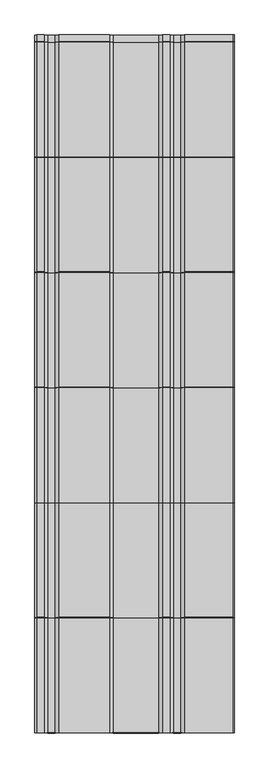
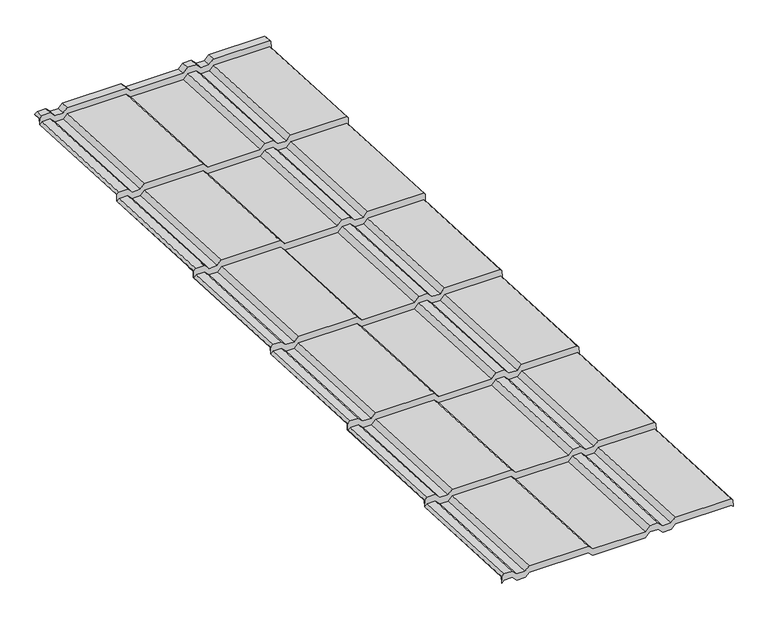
"""IFC4 building model written with IfcOpenShell, lengths in millimetres: proxy geometry, AQUAPLAST - Blachodachówka Alice na wymiar : Blachodachówka Alice."""

from ifc_helpers import new_model, si_unit, origin, place, context, project, spatial, faceted_brep, source, transform, mapped, element, save


def specialty_equipment_d922b182(model_context):
    return source(origin(), model_context, "Body", "Brep", [
        faceted_brep([(-566.0477972, 4191.8197377, 29.0407544), (-571.7598776, 4191.5357252, 23.3357391), (-571.7598776, 4190.7215377, 6.9809929), (-566.0477972, 4191.0055502, 12.6860082), (-543.5017928, 4191.0055502, 12.6860082), (-532.0017928, 4190.4337544, 1.2002323), (-510.6231132, 4190.4337544, 1.2002323), (-499.6231132, 4190.9806895, 12.1866267), (-345.1055852, 4190.9806895, 12.1866267), (-333.6055852, 4190.4088937, 0.7008507), (-195.9354926, 4190.4088937, 0.7008507), (-183.9354926, 4191.0055502, 12.6860082), (-161.7088996, 4191.0055502, 12.6860082), (-149.7088996, 4190.4088937, 0.7008507), (-128.1231132, 4190.4088937, 0.7008507), (-116.6231132, 4190.9806895, 12.1866267), (30.5086777, 4190.9806895, 12.1866267), (34.2401224, 4190.795157, 8.4597973), (34.2401224, 4191.6093445, 24.8145435), (30.5086777, 4191.794877, 28.5413729), (-116.6231132, 4191.794877, 28.5413729), (-128.1231132, 4191.2230812, 17.0555969), (-149.7088996, 4191.2230812, 17.0555969), (-161.7088996, 4191.8197377, 29.0407544), (-183.9354926, 4191.8197377, 29.0407544), (-195.9354926, 4191.2230812, 17.0555969), (-333.6055852, 4191.2230812, 17.0555969), (-345.1055852, 4191.794877, 28.5413729), (-499.6231132, 4191.794877, 28.5413729), (-510.6231132, 4191.2479419, 17.5549785), (-532.0017928, 4191.2479419, 17.5549785), (-543.5017928, 4191.8197377, 29.0407544), (-510.4160064, 4212.1971069, 16.0114481), (-532.2088996, 4212.1971069, 16.0114481), (-543.7088996, 4212.7689027, 27.497224), (-565.8406904, 4212.7689027, 27.497224), (-571.7598776, 4212.4745926, 21.5853581), (-571.7598776, 4212.5097509, 22.2915903), (-566.0477972, 4212.7937634, 27.9966056), (-543.5017928, 4212.7937634, 27.9966056), (-532.0017928, 4212.2219676, 16.5108296), (-510.6231132, 4212.2219676, 16.5108296), (-499.6231132, 4212.7689027, 27.497224), (-345.1055852, 4212.7689027, 27.497224), (-333.6055852, 4212.1971069, 16.0114481), (-195.9354926, 4212.1971069, 16.0114481), (-183.9354926, 4212.7937634, 27.9966056), (-161.7088996, 4212.7937634, 27.9966056), (-149.7088996, 4212.1971069, 16.0114481), (-128.1231132, 4212.1971069, 16.0114481), (-116.6231132, 4212.7689027, 27.497224), (30.5086777, 4212.7689027, 27.497224), (34.2401224, 4212.5833701, 23.7703947), (34.2401224, 4212.5482118, 23.0641625), (30.3015709, 4212.744042, 26.9978425), (-116.4160064, 4212.744042, 26.9978425), (-127.9160064, 4212.1722462, 15.5120665), (-149.9160064, 4212.1722462, 15.5120665), (-161.9160064, 4212.7689027, 27.497224), (-183.7283858, 4212.7689027, 27.497224), (-195.7283858, 4212.1722462, 15.5120665), (-333.8126919, 4212.1722462, 15.5120665), (-345.3126919, 4212.744042, 26.9978425), (-499.4160064, 4212.744042, 26.9978425), (-510.4160064, 4192.2218443, 17.0058755), (-532.2088996, 4192.2218443, 17.0058755), (-543.7088996, 4192.7936401, 28.4916515), (-565.8406904, 4192.7936401, 28.4916515), (-571.7598776, 4192.49933, 22.5797856), (-566.0477972, 4192.8185008, 28.9910331), (-543.5017928, 4192.8185008, 28.9910331), (-532.0017928, 4192.246705, 17.5052571), (-510.6231132, 4192.246705, 17.5052571), (-499.6231132, 4192.7936401, 28.4916515), (-345.1055852, 4192.7936401, 28.4916515), (-333.6055852, 4192.2218443, 17.0058755), (-195.9354926, 4192.2218443, 17.0058755), (-183.9354926, 4192.8185008, 28.9910331), (-161.7088996, 4192.8185008, 28.9910331), (-149.7088996, 4192.2218443, 17.0058755), (-128.1231132, 4192.2218443, 17.0058755), (-116.6231132, 4192.7936401, 28.4916515), (30.5086777, 4192.7936401, 28.4916515), (34.2401224, 4192.5729493, 24.0585899), (30.3015709, 4192.7687795, 27.9922699), (-116.4160064, 4192.7687795, 27.9922699), (-127.9160064, 4192.1969837, 16.506494), (-149.9160064, 4192.1969837, 16.506494), (-161.9160064, 4192.7936401, 28.4916515), (-183.7283858, 4192.7936401, 28.4916515), (-195.7283858, 4192.1969837, 16.506494), (-333.8126919, 4192.1969837, 16.506494), (-345.3126919, 4192.7687795, 27.9922699), (-499.4160064, 4192.7687795, 27.9922699), (-566.0477972, 3492.0, 29.9628938), (-571.7598776, 3491.7159875, 24.2578785), (-571.7598776, 3490.8504822, 6.8723021), (-565.8406904, 3491.1447924, 12.784168), (-543.7088996, 3491.1447924, 12.784168), (-532.2088996, 3490.5729966, 1.2983921), (-510.4160064, 3490.5729966, 1.2983921), (-499.4160064, 3491.1199317, 12.2847865), (-345.3126919, 3491.1199317, 12.2847865), (-333.8126919, 3490.5481359, 0.7990105), (-195.7283858, 3490.5481359, 0.7990105), (-183.7283858, 3491.1447924, 12.784168), (-161.9160064, 3491.1447924, 12.784168), (-149.9160064, 3490.5481359, 0.7990105), (-127.9160064, 3490.5481359, 0.7990105), (-116.4160064, 3491.1199317, 12.2847865), (30.3015709, 3491.1199317, 12.2847865), (34.2401224, 3490.9241015, 8.3511065), (34.2401224, 3491.7896068, 25.7366829), (30.5086777, 3491.9751393, 29.4635123), (-116.6231132, 3491.9751393, 29.4635123), (-128.1231132, 3491.4033435, 17.9777363), (-149.7088996, 3491.4033435, 17.9777363), (-161.7088996, 3492.0, 29.9628938), (-183.9354926, 3492.0, 29.9628938), (-195.9354926, 3491.4033435, 17.9777363), (-333.6055852, 3491.4033435, 17.9777363), (-345.1055852, 3491.9751393, 29.4635123), (-499.6231132, 3491.9751393, 29.4635123), (-510.6231132, 3491.4282042, 18.4771179), (-532.0017928, 3491.4282042, 18.4771179), (-543.5017928, 3492.0, 29.9628938), (-510.4160064, 3840.9704382, 0.5752554), (-532.2088996, 3840.9704382, 0.5752554), (-543.7088996, 3841.542234, 12.0610314), (-565.8406904, 3841.542234, 12.0610314), (-571.7598776, 3841.2479238, 6.1491655), (-571.7598776, 3842.1180479, 23.6275202), (-565.8406904, 3842.412358, 29.5393861), (-543.7088996, 3842.412358, 29.5393861), (-532.2088996, 3841.8405622, 18.0536102), (-510.4160064, 3841.8405622, 18.0536102), (-499.4160064, 3842.3874973, 29.0400046), (-345.3126919, 3842.3874973, 29.0400046), (-333.8126919, 3841.8157015, 17.5542286), (-195.7283858, 3841.8157015, 17.5542286), (-183.7283858, 3842.412358, 29.5393861), (-161.9160064, 3842.412358, 29.5393861), (-149.9160064, 3841.8157015, 17.5542286), (-127.9160064, 3841.8157015, 17.5542286), (-116.4160064, 3842.3874973, 29.0400046), (30.3015709, 3842.3874973, 29.0400046), (34.2401224, 3842.1916671, 25.1063246), (34.2401224, 3841.3215431, 7.6279699), (30.3015709, 3841.5173733, 11.5616498), (-116.4160064, 3841.5173733, 11.5616498), (-127.9160064, 3840.9455775, 0.0758739), (-149.9160064, 3840.9455775, 0.0758739), (-161.9160064, 3841.542234, 12.0610314), (-183.7283858, 3841.542234, 12.0610314), (-195.7283858, 3840.9455775, 0.0758739), (-333.8126919, 3840.9455775, 0.0758739), (-345.3126919, 3841.5173733, 11.5616498), (-499.4160064, 3841.5173733, 11.5616498), (-510.6231132, 3839.9965357, 1.1243584), (-532.0017928, 3839.9965357, 1.1243584), (-499.6231132, 3840.5434708, 12.1107528), (-345.1055852, 3840.5434708, 12.1107528), (-333.6055852, 3839.971675, 0.6249768), (-195.9354926, 3839.971675, 0.6249768), (-183.9354926, 3840.5683315, 12.6101343), (-161.7088996, 3840.5683315, 12.6101343), (-149.7088996, 3839.971675, 0.6249768), (-128.1231132, 3839.971675, 0.6249768), (-116.6231132, 3840.5434708, 12.1107528), (30.5086777, 3840.5434708, 12.1107528), (34.2401224, 3840.3579383, 8.3839234), (34.2401224, 3492.7532116, 24.9807293), (30.3015709, 3492.9490418, 28.9144093), (30.3015709, 3840.5186101, 11.6113712), (-116.4160064, 3492.9490418, 28.9144093), (-116.4160064, 3840.5186101, 11.6113712), (-127.9160064, 3492.377246, 17.4286334), (-127.9160064, 3839.9468143, 0.1255953), (-149.9160064, 3492.377246, 17.4286334), (-149.9160064, 3839.9468143, 0.1255953), (-161.9160064, 3492.9739024, 29.4137909), (-161.9160064, 3840.5434708, 12.1107528), (-183.7283858, 3492.9739024, 29.4137909), (-183.7283858, 3840.5434708, 12.1107528), (-195.7283858, 3492.377246, 17.4286334), (-195.7283858, 3839.9468143, 0.1255953), (-333.8126919, 3492.377246, 17.4286334), (-333.8126919, 3839.9468143, 0.1255953), (-345.3126919, 3492.9490418, 28.9144093), (-345.3126919, 3840.5186101, 11.6113712), (-499.4160064, 3492.9490418, 28.9144093), (-499.4160064, 3840.5186101, 11.6113712), (-510.4160064, 3492.4021066, 17.9280149), (-510.4160064, 3839.971675, 0.6249768), (-532.2088996, 3492.4021066, 17.9280149), (-532.2088996, 3839.971675, 0.6249768), (-543.7088996, 3492.9739024, 29.4137909), (-543.7088996, 3840.5434708, 12.1107528), (-565.8406904, 3492.9739024, 29.4137909), (-565.8406904, 3840.5434708, 12.1107528), (-571.7598776, 3492.6795923, 23.501925), (-566.0477972, 3840.5683315, 12.6101343), (-571.7598776, 3840.284319, 6.905119), (-543.5017928, 3840.5683315, 12.6101343), (-566.0477972, 3841.4384556, 30.0884891), (-571.7598776, 3841.1544431, 24.3834738), (34.2401224, 3841.2280623, 25.8622781), (30.5086777, 3841.4135949, 29.5891075), (-116.6231132, 3841.4135949, 29.5891075), (-128.1231132, 3840.8417991, 18.1033315), (-149.7088996, 3840.8417991, 18.1033315), (-161.7088996, 3841.4384556, 30.0884891), (-183.9354926, 3841.4384556, 30.0884891), (-195.9354926, 3840.8417991, 18.1033315), (-333.6055852, 3840.8417991, 18.1033315), (-345.1055852, 3841.4135949, 29.5891075), (-499.6231132, 3841.4135949, 29.5891075), (-510.6231132, 3840.8666598, 18.6027131), (-532.0017928, 3840.8666598, 18.6027131), (-543.5017928, 3841.4384556, 30.0884891), (30.3015709, 4191.954592, 11.6375237), (34.2401224, 4191.7587618, 7.7038437), (-116.4160064, 4191.954592, 11.6375237), (-127.9160064, 4191.3827962, 0.1517478), (-149.9160064, 4191.3827962, 0.1517478), (-161.9160064, 4191.9794527, 12.1369053), (-183.7283858, 4191.9794527, 12.1369053), (-195.7283858, 4191.3827962, 0.1517478), (-333.8126919, 4191.3827962, 0.1517478), (-345.3126919, 4191.954592, 11.6375237), (-499.4160064, 4191.954592, 11.6375237), (-510.4160064, 4191.4076569, 0.6511293), (-532.2088996, 4191.4076569, 0.6511293), (-543.7088996, 4191.9794527, 12.1369053), (-565.8406904, 4191.9794527, 12.1369053), (-571.7598776, 4191.6851425, 6.2250394), (-571.7598776, 3491.8492454, 6.8225807), (34.2401224, 3491.9228646, 8.3013851), (30.3015709, 3492.1186948, 12.2350651), (-116.4160064, 3492.1186948, 12.2350651), (-127.9160064, 3491.546899, 0.7492891), (-149.9160064, 3491.546899, 0.7492891), (-161.9160064, 3492.1435555, 12.7344467), (-183.7283858, 3492.1435555, 12.7344467), (-195.7283858, 3491.546899, 0.7492891), (-333.8126919, 3491.546899, 0.7492891), (-345.3126919, 3492.1186948, 12.2350651), (-499.4160064, 3492.1186948, 12.2350651), (-510.4160064, 3491.5717597, 1.2486707), (-532.2088996, 3491.5717597, 1.2486707), (-543.7088996, 3492.1435555, 12.7344467), (-565.8406904, 3492.1435555, 12.7344467)], [[[0, 1, 2, 3, 4, 5, 6, 7, 8, 9, 10, 11, 12, 13, 14, 15, 16, 17, 18, 19, 20, 21, 22, 23, 24, 25, 26, 27, 28, 29, 30, 31]], [[32, 33, 34, 35, 36, 37, 38, 39, 40, 41, 42, 43, 44, 45, 46, 47, 48, 49, 50, 51, 52, 53, 54, 55, 56, 57, 58, 59, 60, 61, 62, 63]], [[32, 64, 65, 33]], [[33, 65, 66, 34]], [[34, 66, 67, 35]], [[67, 68, 36, 35]], [[38, 37, 1, 0, 69]], [[31, 70, 39, 38, 69, 0]], [[30, 71, 40, 39, 70, 31]], [[29, 72, 41, 40, 71, 30]], [[28, 73, 42, 41, 72, 29]], [[27, 74, 43, 42, 73, 28]], [[26, 75, 44, 43, 74, 27]], [[25, 76, 45, 44, 75, 26]], [[24, 77, 46, 45, 76, 25]], [[23, 78, 47, 46, 77, 24]], [[22, 79, 48, 47, 78, 23]], [[21, 80, 49, 48, 79, 22]], [[20, 81, 50, 49, 80, 21]], [[19, 82, 51, 50, 81, 20]], [[82, 19, 18, 52, 51]], [[54, 53, 83, 84]], [[54, 84, 85, 55]], [[55, 85, 86, 56]], [[56, 86, 87, 57]], [[57, 87, 88, 58]], [[58, 88, 89, 59]], [[59, 89, 90, 60]], [[60, 90, 91, 61]], [[61, 91, 92, 62]], [[62, 92, 93, 63]], [[63, 93, 64, 32]], [[94, 95, 96, 97, 98, 99, 100, 101, 102, 103, 104, 105, 106, 107, 108, 109, 110, 111, 112, 113, 114, 115, 116, 117, 118, 119, 120, 121, 122, 123, 124, 125]], [[126, 127, 128, 129, 130, 131, 132, 133, 134, 135, 136, 137, 138, 139, 140, 141, 142, 143, 144, 145, 146, 147, 148, 149, 150, 151, 152, 153, 154, 155, 156, 157]], [[123, 158, 159, 124]], [[122, 160, 158, 123]], [[121, 161, 160, 122]], [[120, 162, 161, 121]], [[119, 163, 162, 120]], [[118, 164, 163, 119]], [[117, 165, 164, 118]], [[116, 166, 165, 117]], [[115, 167, 166, 116]], [[114, 168, 167, 115]], [[113, 169, 168, 114]], [[113, 112, 170, 169]], [[148, 147, 171, 172, 173]], [[148, 173, 172, 174, 175, 149]], [[149, 175, 174, 176, 177, 150]], [[150, 177, 176, 178, 179, 151]], [[151, 179, 178, 180, 181, 152]], [[152, 181, 180, 182, 183, 153]], [[153, 183, 182, 184, 185, 154]], [[154, 185, 184, 186, 187, 155]], [[155, 187, 186, 188, 189, 156]], [[156, 189, 188, 190, 191, 157]], [[157, 191, 190, 192, 193, 126]], [[126, 193, 192, 194, 195, 127]], [[127, 195, 194, 196, 197, 128]], [[128, 197, 196, 198, 199, 129]], [[199, 198, 200, 130, 129]], [[201, 202, 95, 94]], [[125, 203, 201, 94]], [[124, 159, 203, 125]], [[204, 205, 202, 201, 203, 159, 158, 160, 161, 162, 163, 164, 165, 166, 167, 168, 169, 170, 206, 207, 208, 209, 210, 211, 212, 213, 214, 215, 216, 217, 218, 219]], [[217, 6, 5, 218]], [[216, 7, 6, 217]], [[215, 8, 7, 216]], [[214, 9, 8, 215]], [[213, 10, 9, 214]], [[212, 11, 10, 213]], [[211, 12, 11, 212]], [[210, 13, 12, 211]], [[209, 14, 13, 210]], [[208, 15, 14, 209]], [[207, 16, 15, 208]], [[207, 206, 17, 16]], [[220, 221, 146, 145]], [[220, 145, 144, 222]], [[222, 144, 143, 223]], [[223, 143, 142, 224]], [[224, 142, 141, 225]], [[225, 141, 140, 226]], [[226, 140, 139, 227]], [[227, 139, 138, 228]], [[228, 138, 137, 229]], [[229, 137, 136, 230]], [[230, 136, 135, 231]], [[231, 135, 134, 232]], [[232, 134, 133, 233]], [[233, 133, 132, 234]], [[234, 132, 131, 235]], [[3, 2, 205, 204]], [[219, 4, 3, 204]], [[218, 5, 4, 219]], [[235, 68, 67, 66, 65, 64, 93, 92, 91, 90, 89, 88, 87, 86, 85, 84, 83, 221, 220, 222, 223, 224, 225, 226, 227, 228, 229, 230, 231, 232, 233, 234]], [[96, 95, 202, 205, 2, 1, 37, 36, 68, 235, 131, 130, 200, 236]], [[200, 198, 196, 194, 192, 190, 188, 186, 184, 182, 180, 178, 176, 174, 172, 171, 237, 238, 239, 240, 241, 242, 243, 244, 245, 246, 247, 248, 249, 250, 251, 236]], [[238, 237, 111, 110]], [[109, 239, 238, 110]], [[108, 240, 239, 109]], [[107, 241, 240, 108]], [[106, 242, 241, 107]], [[105, 243, 242, 106]], [[104, 244, 243, 105]], [[103, 245, 244, 104]], [[102, 246, 245, 103]], [[101, 247, 246, 102]], [[100, 248, 247, 101]], [[99, 249, 248, 100]], [[98, 250, 249, 99]], [[97, 251, 250, 98]], [[96, 236, 251, 97]], [[17, 206, 170, 112, 111, 237, 171, 147, 146, 221, 83, 53, 52, 18]]]),
        faceted_brep([(-566.0477972, 3493.4197377, 29.0407544), (-571.7598776, 3493.1357252, 23.3357391), (-571.7598776, 3492.3215377, 6.9809929), (-566.0477972, 3492.6055502, 12.6860082), (-543.5017928, 3492.6055502, 12.6860082), (-532.0017928, 3492.0337544, 1.2002323), (-510.6231132, 3492.0337544, 1.2002323), (-499.6231132, 3492.5806895, 12.1866267), (-345.1055852, 3492.5806895, 12.1866267), (-333.6055852, 3492.0088937, 0.7008507), (-195.9354926, 3492.0088937, 0.7008507), (-183.9354926, 3492.6055502, 12.6860082), (-161.7088996, 3492.6055502, 12.6860082), (-149.7088996, 3492.0088937, 0.7008507), (-128.1231132, 3492.0088937, 0.7008507), (-116.6231132, 3492.5806895, 12.1866267), (30.5086777, 3492.5806895, 12.1866267), (34.2401224, 3492.395157, 8.4597973), (34.2401224, 3493.2093445, 24.8145435), (30.5086777, 3493.394877, 28.5413729), (-116.6231132, 3493.394877, 28.5413729), (-128.1231132, 3492.8230812, 17.0555969), (-149.7088996, 3492.8230812, 17.0555969), (-161.7088996, 3493.4197377, 29.0407544), (-183.9354926, 3493.4197377, 29.0407544), (-195.9354926, 3492.8230812, 17.0555969), (-333.6055852, 3492.8230812, 17.0555969), (-345.1055852, 3493.394877, 28.5413729), (-499.6231132, 3493.394877, 28.5413729), (-510.6231132, 3492.8479419, 17.5549785), (-532.0017928, 3492.8479419, 17.5549785), (-543.5017928, 3493.4197377, 29.0407544), (-510.4160064, 3513.7971069, 16.0114481), (-532.2088996, 3513.7971069, 16.0114481), (-543.7088996, 3514.3689027, 27.497224), (-565.8406904, 3514.3689027, 27.497224), (-571.7598776, 3514.0745926, 21.5853581), (-571.7598776, 3514.1097509, 22.2915903), (-566.0477972, 3514.3937634, 27.9966056), (-543.5017928, 3514.3937634, 27.9966056), (-532.0017928, 3513.8219676, 16.5108296), (-510.6231132, 3513.8219676, 16.5108296), (-499.6231132, 3514.3689027, 27.497224), (-345.1055852, 3514.3689027, 27.497224), (-333.6055852, 3513.7971069, 16.0114481), (-195.9354926, 3513.7971069, 16.0114481), (-183.9354926, 3514.3937634, 27.9966056), (-161.7088996, 3514.3937634, 27.9966056), (-149.7088996, 3513.7971069, 16.0114481), (-128.1231132, 3513.7971069, 16.0114481), (-116.6231132, 3514.3689027, 27.497224), (30.5086777, 3514.3689027, 27.497224), (34.2401224, 3514.1833701, 23.7703947), (34.2401224, 3514.1482118, 23.0641625), (30.3015709, 3514.344042, 26.9978425), (-116.4160064, 3514.344042, 26.9978425), (-127.9160064, 3513.7722462, 15.5120665), (-149.9160064, 3513.7722462, 15.5120665), (-161.9160064, 3514.3689027, 27.497224), (-183.7283858, 3514.3689027, 27.497224), (-195.7283858, 3513.7722462, 15.5120665), (-333.8126919, 3513.7722462, 15.5120665), (-345.3126919, 3514.344042, 26.9978425), (-499.4160064, 3514.344042, 26.9978425), (-510.4160064, 3493.8218443, 17.0058755), (-532.2088996, 3493.8218443, 17.0058755), (-543.7088996, 3494.3936401, 28.4916515), (-565.8406904, 3494.3936401, 28.4916515), (-571.7598776, 3494.09933, 22.5797856), (-566.0477972, 3494.4185008, 28.9910331), (-543.5017928, 3494.4185008, 28.9910331), (-532.0017928, 3493.846705, 17.5052571), (-510.6231132, 3493.846705, 17.5052571), (-499.6231132, 3494.3936401, 28.4916515), (-345.1055852, 3494.3936401, 28.4916515), (-333.6055852, 3493.8218443, 17.0058755), (-195.9354926, 3493.8218443, 17.0058755), (-183.9354926, 3494.4185008, 28.9910331), (-161.7088996, 3494.4185008, 28.9910331), (-149.7088996, 3493.8218443, 17.0058755), (-128.1231132, 3493.8218443, 17.0058755), (-116.6231132, 3494.3936401, 28.4916515), (30.5086777, 3494.3936401, 28.4916515), (34.2401224, 3494.1729493, 24.0585899), (30.3015709, 3494.3687795, 27.9922699), (-116.4160064, 3494.3687795, 27.9922699), (-127.9160064, 3493.7969837, 16.506494), (-149.9160064, 3493.7969837, 16.506494), (-161.9160064, 3494.3936401, 28.4916515), (-183.7283858, 3494.3936401, 28.4916515), (-195.7283858, 3493.7969837, 16.506494), (-333.8126919, 3493.7969837, 16.506494), (-345.3126919, 3494.3687795, 27.9922699), (-499.4160064, 3494.3687795, 27.9922699), (-566.0477972, 2793.6, 29.9628938), (-571.7598776, 2793.3159875, 24.2578785), (-571.7598776, 2792.4504822, 6.8723021), (-565.8406904, 2792.7447924, 12.784168), (-543.7088996, 2792.7447924, 12.784168), (-532.2088996, 2792.1729966, 1.2983921), (-510.4160064, 2792.1729966, 1.2983921), (-499.4160064, 2792.7199317, 12.2847865), (-345.3126919, 2792.7199317, 12.2847865), (-333.8126919, 2792.1481359, 0.7990105), (-195.7283858, 2792.1481359, 0.7990105), (-183.7283858, 2792.7447924, 12.784168), (-161.9160064, 2792.7447924, 12.784168), (-149.9160064, 2792.1481359, 0.7990105), (-127.9160064, 2792.1481359, 0.7990105), (-116.4160064, 2792.7199317, 12.2847865), (30.3015709, 2792.7199317, 12.2847865), (34.2401224, 2792.5241015, 8.3511065), (34.2401224, 2793.3896068, 25.7366829), (30.5086777, 2793.5751393, 29.4635123), (-116.6231132, 2793.5751393, 29.4635123), (-128.1231132, 2793.0033435, 17.9777363), (-149.7088996, 2793.0033435, 17.9777363), (-161.7088996, 2793.6, 29.9628938), (-183.9354926, 2793.6, 29.9628938), (-195.9354926, 2793.0033435, 17.9777363), (-333.6055852, 2793.0033435, 17.9777363), (-345.1055852, 2793.5751393, 29.4635123), (-499.6231132, 2793.5751393, 29.4635123), (-510.6231132, 2793.0282042, 18.4771179), (-532.0017928, 2793.0282042, 18.4771179), (-543.5017928, 2793.6, 29.9628938), (-510.4160064, 3142.5704382, 0.5752554), (-532.2088996, 3142.5704382, 0.5752554), (-543.7088996, 3143.142234, 12.0610314), (-565.8406904, 3143.142234, 12.0610314), (-571.7598776, 3142.8479238, 6.1491655), (-571.7598776, 3143.7180479, 23.6275202), (-565.8406904, 3144.012358, 29.5393861), (-543.7088996, 3144.012358, 29.5393861), (-532.2088996, 3143.4405622, 18.0536102), (-510.4160064, 3143.4405622, 18.0536102), (-499.4160064, 3143.9874973, 29.0400046), (-345.3126919, 3143.9874973, 29.0400046), (-333.8126919, 3143.4157015, 17.5542286), (-195.7283858, 3143.4157015, 17.5542286), (-183.7283858, 3144.012358, 29.5393861), (-161.9160064, 3144.012358, 29.5393861), (-149.9160064, 3143.4157015, 17.5542286), (-127.9160064, 3143.4157015, 17.5542286), (-116.4160064, 3143.9874973, 29.0400046), (30.3015709, 3143.9874973, 29.0400046), (34.2401224, 3143.7916671, 25.1063246), (34.2401224, 3142.9215431, 7.6279699), (30.3015709, 3143.1173733, 11.5616498), (-116.4160064, 3143.1173733, 11.5616498), (-127.9160064, 3142.5455775, 0.0758739), (-149.9160064, 3142.5455775, 0.0758739), (-161.9160064, 3143.142234, 12.0610314), (-183.7283858, 3143.142234, 12.0610314), (-195.7283858, 3142.5455775, 0.0758739), (-333.8126919, 3142.5455775, 0.0758739), (-345.3126919, 3143.1173733, 11.5616498), (-499.4160064, 3143.1173733, 11.5616498), (-510.6231132, 3141.5965357, 1.1243584), (-532.0017928, 3141.5965357, 1.1243584), (-499.6231132, 3142.1434708, 12.1107528), (-345.1055852, 3142.1434708, 12.1107528), (-333.6055852, 3141.571675, 0.6249768), (-195.9354926, 3141.571675, 0.6249768), (-183.9354926, 3142.1683315, 12.6101343), (-161.7088996, 3142.1683315, 12.6101343), (-149.7088996, 3141.571675, 0.6249768), (-128.1231132, 3141.571675, 0.6249768), (-116.6231132, 3142.1434708, 12.1107528), (30.5086777, 3142.1434708, 12.1107528), (34.2401224, 3141.9579383, 8.3839234), (34.2401224, 2794.3532116, 24.9807293), (30.3015709, 2794.5490418, 28.9144093), (30.3015709, 3142.1186101, 11.6113712), (-116.4160064, 2794.5490418, 28.9144093), (-116.4160064, 3142.1186101, 11.6113712), (-127.9160064, 2793.977246, 17.4286334), (-127.9160064, 3141.5468143, 0.1255953), (-149.9160064, 2793.977246, 17.4286334), (-149.9160064, 3141.5468143, 0.1255953), (-161.9160064, 2794.5739024, 29.4137909), (-161.9160064, 3142.1434708, 12.1107528), (-183.7283858, 2794.5739024, 29.4137909), (-183.7283858, 3142.1434708, 12.1107528), (-195.7283858, 2793.977246, 17.4286334), (-195.7283858, 3141.5468143, 0.1255953), (-333.8126919, 2793.977246, 17.4286334), (-333.8126919, 3141.5468143, 0.1255953), (-345.3126919, 2794.5490418, 28.9144093), (-345.3126919, 3142.1186101, 11.6113712), (-499.4160064, 2794.5490418, 28.9144093), (-499.4160064, 3142.1186101, 11.6113712), (-510.4160064, 2794.0021066, 17.9280149), (-510.4160064, 3141.571675, 0.6249768), (-532.2088996, 2794.0021066, 17.9280149), (-532.2088996, 3141.571675, 0.6249768), (-543.7088996, 2794.5739024, 29.4137909), (-543.7088996, 3142.1434708, 12.1107528), (-565.8406904, 2794.5739024, 29.4137909), (-565.8406904, 3142.1434708, 12.1107528), (-571.7598776, 2794.2795923, 23.501925), (-566.0477972, 3142.1683315, 12.6101343), (-571.7598776, 3141.884319, 6.905119), (-543.5017928, 3142.1683315, 12.6101343), (-566.0477972, 3143.0384556, 30.0884891), (-571.7598776, 3142.7544431, 24.3834738), (34.2401224, 3142.8280623, 25.8622781), (30.5086777, 3143.0135949, 29.5891075), (-116.6231132, 3143.0135949, 29.5891075), (-128.1231132, 3142.4417991, 18.1033315), (-149.7088996, 3142.4417991, 18.1033315), (-161.7088996, 3143.0384556, 30.0884891), (-183.9354926, 3143.0384556, 30.0884891), (-195.9354926, 3142.4417991, 18.1033315), (-333.6055852, 3142.4417991, 18.1033315), (-345.1055852, 3143.0135949, 29.5891075), (-499.6231132, 3143.0135949, 29.5891075), (-510.6231132, 3142.4666598, 18.6027131), (-532.0017928, 3142.4666598, 18.6027131), (-543.5017928, 3143.0384556, 30.0884891), (30.3015709, 3493.554592, 11.6375237), (34.2401224, 3493.3587618, 7.7038437), (-116.4160064, 3493.554592, 11.6375237), (-127.9160064, 3492.9827962, 0.1517478), (-149.9160064, 3492.9827962, 0.1517478), (-161.9160064, 3493.5794527, 12.1369053), (-183.7283858, 3493.5794527, 12.1369053), (-195.7283858, 3492.9827962, 0.1517478), (-333.8126919, 3492.9827962, 0.1517478), (-345.3126919, 3493.554592, 11.6375237), (-499.4160064, 3493.554592, 11.6375237), (-510.4160064, 3493.0076569, 0.6511293), (-532.2088996, 3493.0076569, 0.6511293), (-543.7088996, 3493.5794527, 12.1369053), (-565.8406904, 3493.5794527, 12.1369053), (-571.7598776, 3493.2851425, 6.2250394), (-571.7598776, 2793.4492454, 6.8225807), (34.2401224, 2793.5228646, 8.3013851), (30.3015709, 2793.7186948, 12.2350651), (-116.4160064, 2793.7186948, 12.2350651), (-127.9160064, 2793.146899, 0.7492891), (-149.9160064, 2793.146899, 0.7492891), (-161.9160064, 2793.7435555, 12.7344467), (-183.7283858, 2793.7435555, 12.7344467), (-195.7283858, 2793.146899, 0.7492891), (-333.8126919, 2793.146899, 0.7492891), (-345.3126919, 2793.7186948, 12.2350651), (-499.4160064, 2793.7186948, 12.2350651), (-510.4160064, 2793.1717597, 1.2486707), (-532.2088996, 2793.1717597, 1.2486707), (-543.7088996, 2793.7435555, 12.7344467), (-565.8406904, 2793.7435555, 12.7344467)], [[[0, 1, 2, 3, 4, 5, 6, 7, 8, 9, 10, 11, 12, 13, 14, 15, 16, 17, 18, 19, 20, 21, 22, 23, 24, 25, 26, 27, 28, 29, 30, 31]], [[32, 33, 34, 35, 36, 37, 38, 39, 40, 41, 42, 43, 44, 45, 46, 47, 48, 49, 50, 51, 52, 53, 54, 55, 56, 57, 58, 59, 60, 61, 62, 63]], [[32, 64, 65, 33]], [[33, 65, 66, 34]], [[34, 66, 67, 35]], [[67, 68, 36, 35]], [[38, 37, 1, 0, 69]], [[31, 70, 39, 38, 69, 0]], [[30, 71, 40, 39, 70, 31]], [[29, 72, 41, 40, 71, 30]], [[28, 73, 42, 41, 72, 29]], [[27, 74, 43, 42, 73, 28]], [[26, 75, 44, 43, 74, 27]], [[25, 76, 45, 44, 75, 26]], [[24, 77, 46, 45, 76, 25]], [[23, 78, 47, 46, 77, 24]], [[22, 79, 48, 47, 78, 23]], [[21, 80, 49, 48, 79, 22]], [[20, 81, 50, 49, 80, 21]], [[19, 82, 51, 50, 81, 20]], [[82, 19, 18, 52, 51]], [[54, 53, 83, 84]], [[54, 84, 85, 55]], [[55, 85, 86, 56]], [[56, 86, 87, 57]], [[57, 87, 88, 58]], [[58, 88, 89, 59]], [[59, 89, 90, 60]], [[60, 90, 91, 61]], [[61, 91, 92, 62]], [[62, 92, 93, 63]], [[63, 93, 64, 32]], [[94, 95, 96, 97, 98, 99, 100, 101, 102, 103, 104, 105, 106, 107, 108, 109, 110, 111, 112, 113, 114, 115, 116, 117, 118, 119, 120, 121, 122, 123, 124, 125]], [[126, 127, 128, 129, 130, 131, 132, 133, 134, 135, 136, 137, 138, 139, 140, 141, 142, 143, 144, 145, 146, 147, 148, 149, 150, 151, 152, 153, 154, 155, 156, 157]], [[123, 158, 159, 124]], [[122, 160, 158, 123]], [[121, 161, 160, 122]], [[120, 162, 161, 121]], [[119, 163, 162, 120]], [[118, 164, 163, 119]], [[117, 165, 164, 118]], [[116, 166, 165, 117]], [[115, 167, 166, 116]], [[114, 168, 167, 115]], [[113, 169, 168, 114]], [[113, 112, 170, 169]], [[148, 147, 171, 172, 173]], [[148, 173, 172, 174, 175, 149]], [[149, 175, 174, 176, 177, 150]], [[150, 177, 176, 178, 179, 151]], [[151, 179, 178, 180, 181, 152]], [[152, 181, 180, 182, 183, 153]], [[153, 183, 182, 184, 185, 154]], [[154, 185, 184, 186, 187, 155]], [[155, 187, 186, 188, 189, 156]], [[156, 189, 188, 190, 191, 157]], [[157, 191, 190, 192, 193, 126]], [[126, 193, 192, 194, 195, 127]], [[127, 195, 194, 196, 197, 128]], [[128, 197, 196, 198, 199, 129]], [[199, 198, 200, 130, 129]], [[201, 202, 95, 94]], [[125, 203, 201, 94]], [[124, 159, 203, 125]], [[204, 205, 202, 201, 203, 159, 158, 160, 161, 162, 163, 164, 165, 166, 167, 168, 169, 170, 206, 207, 208, 209, 210, 211, 212, 213, 214, 215, 216, 217, 218, 219]], [[217, 6, 5, 218]], [[216, 7, 6, 217]], [[215, 8, 7, 216]], [[214, 9, 8, 215]], [[213, 10, 9, 214]], [[212, 11, 10, 213]], [[211, 12, 11, 212]], [[210, 13, 12, 211]], [[209, 14, 13, 210]], [[208, 15, 14, 209]], [[207, 16, 15, 208]], [[207, 206, 17, 16]], [[220, 221, 146, 145]], [[220, 145, 144, 222]], [[222, 144, 143, 223]], [[223, 143, 142, 224]], [[224, 142, 141, 225]], [[225, 141, 140, 226]], [[226, 140, 139, 227]], [[227, 139, 138, 228]], [[228, 138, 137, 229]], [[229, 137, 136, 230]], [[230, 136, 135, 231]], [[231, 135, 134, 232]], [[232, 134, 133, 233]], [[233, 133, 132, 234]], [[234, 132, 131, 235]], [[3, 2, 205, 204]], [[219, 4, 3, 204]], [[218, 5, 4, 219]], [[235, 68, 67, 66, 65, 64, 93, 92, 91, 90, 89, 88, 87, 86, 85, 84, 83, 221, 220, 222, 223, 224, 225, 226, 227, 228, 229, 230, 231, 232, 233, 234]], [[96, 95, 202, 205, 2, 1, 37, 36, 68, 235, 131, 130, 200, 236]], [[200, 198, 196, 194, 192, 190, 188, 186, 184, 182, 180, 178, 176, 174, 172, 171, 237, 238, 239, 240, 241, 242, 243, 244, 245, 246, 247, 248, 249, 250, 251, 236]], [[238, 237, 111, 110]], [[109, 239, 238, 110]], [[108, 240, 239, 109]], [[107, 241, 240, 108]], [[106, 242, 241, 107]], [[105, 243, 242, 106]], [[104, 244, 243, 105]], [[103, 245, 244, 104]], [[102, 246, 245, 103]], [[101, 247, 246, 102]], [[100, 248, 247, 101]], [[99, 249, 248, 100]], [[98, 250, 249, 99]], [[97, 251, 250, 98]], [[96, 236, 251, 97]], [[17, 206, 170, 112, 111, 237, 171, 147, 146, 221, 83, 53, 52, 18]]]),
        faceted_brep([(-566.0477972, 2795.0197377, 29.0407544), (-571.7598776, 2794.7357252, 23.3357391), (-571.7598776, 2793.9215377, 6.9809929), (-566.0477972, 2794.2055502, 12.6860082), (-543.5017928, 2794.2055502, 12.6860082), (-532.0017928, 2793.6337544, 1.2002323), (-510.6231132, 2793.6337544, 1.2002323), (-499.6231132, 2794.1806895, 12.1866267), (-345.1055852, 2794.1806895, 12.1866267), (-333.6055852, 2793.6088937, 0.7008507), (-195.9354926, 2793.6088937, 0.7008507), (-183.9354926, 2794.2055502, 12.6860082), (-161.7088996, 2794.2055502, 12.6860082), (-149.7088996, 2793.6088937, 0.7008507), (-128.1231132, 2793.6088937, 0.7008507), (-116.6231132, 2794.1806895, 12.1866267), (30.5086777, 2794.1806895, 12.1866267), (34.2401224, 2793.995157, 8.4597973), (34.2401224, 2794.8093445, 24.8145435), (30.5086777, 2794.994877, 28.5413729), (-116.6231132, 2794.994877, 28.5413729), (-128.1231132, 2794.4230812, 17.0555969), (-149.7088996, 2794.4230812, 17.0555969), (-161.7088996, 2795.0197377, 29.0407544), (-183.9354926, 2795.0197377, 29.0407544), (-195.9354926, 2794.4230812, 17.0555969), (-333.6055852, 2794.4230812, 17.0555969), (-345.1055852, 2794.994877, 28.5413729), (-499.6231132, 2794.994877, 28.5413729), (-510.6231132, 2794.4479419, 17.5549785), (-532.0017928, 2794.4479419, 17.5549785), (-543.5017928, 2795.0197377, 29.0407544), (-510.4160064, 2815.3971069, 16.0114481), (-532.2088996, 2815.3971069, 16.0114481), (-543.7088996, 2815.9689027, 27.497224), (-565.8406904, 2815.9689027, 27.497224), (-571.7598776, 2815.6745926, 21.5853581), (-571.7598776, 2815.7097509, 22.2915903), (-566.0477972, 2815.9937634, 27.9966056), (-543.5017928, 2815.9937634, 27.9966056), (-532.0017928, 2815.4219676, 16.5108296), (-510.6231132, 2815.4219676, 16.5108296), (-499.6231132, 2815.9689027, 27.497224), (-345.1055852, 2815.9689027, 27.497224), (-333.6055852, 2815.3971069, 16.0114481), (-195.9354926, 2815.3971069, 16.0114481), (-183.9354926, 2815.9937634, 27.9966056), (-161.7088996, 2815.9937634, 27.9966056), (-149.7088996, 2815.3971069, 16.0114481), (-128.1231132, 2815.3971069, 16.0114481), (-116.6231132, 2815.9689027, 27.497224), (30.5086777, 2815.9689027, 27.497224), (34.2401224, 2815.7833701, 23.7703947), (34.2401224, 2815.7482118, 23.0641625), (30.3015709, 2815.944042, 26.9978425), (-116.4160064, 2815.944042, 26.9978425), (-127.9160064, 2815.3722462, 15.5120665), (-149.9160064, 2815.3722462, 15.5120665), (-161.9160064, 2815.9689027, 27.497224), (-183.7283858, 2815.9689027, 27.497224), (-195.7283858, 2815.3722462, 15.5120665), (-333.8126919, 2815.3722462, 15.5120665), (-345.3126919, 2815.944042, 26.9978425), (-499.4160064, 2815.944042, 26.9978425), (-510.4160064, 2795.4218443, 17.0058755), (-532.2088996, 2795.4218443, 17.0058755), (-543.7088996, 2795.9936401, 28.4916515), (-565.8406904, 2795.9936401, 28.4916515), (-571.7598776, 2795.69933, 22.5797856), (-566.0477972, 2796.0185008, 28.9910331), (-543.5017928, 2796.0185008, 28.9910331), (-532.0017928, 2795.446705, 17.5052571), (-510.6231132, 2795.446705, 17.5052571), (-499.6231132, 2795.9936401, 28.4916515), (-345.1055852, 2795.9936401, 28.4916515), (-333.6055852, 2795.4218443, 17.0058755), (-195.9354926, 2795.4218443, 17.0058755), (-183.9354926, 2796.0185008, 28.9910331), (-161.7088996, 2796.0185008, 28.9910331), (-149.7088996, 2795.4218443, 17.0058755), (-128.1231132, 2795.4218443, 17.0058755), (-116.6231132, 2795.9936401, 28.4916515), (30.5086777, 2795.9936401, 28.4916515), (34.2401224, 2795.7729493, 24.0585899), (30.3015709, 2795.9687795, 27.9922699), (-116.4160064, 2795.9687795, 27.9922699), (-127.9160064, 2795.3969837, 16.506494), (-149.9160064, 2795.3969837, 16.506494), (-161.9160064, 2795.9936401, 28.4916515), (-183.7283858, 2795.9936401, 28.4916515), (-195.7283858, 2795.3969837, 16.506494), (-333.8126919, 2795.3969837, 16.506494), (-345.3126919, 2795.9687795, 27.9922699), (-499.4160064, 2795.9687795, 27.9922699), (-566.0477972, 2095.2, 29.9628938), (-571.7598776, 2094.9159875, 24.2578785), (-571.7598776, 2094.0504822, 6.8723021), (-565.8406904, 2094.3447924, 12.784168), (-543.7088996, 2094.3447924, 12.784168), (-532.2088996, 2093.7729966, 1.2983921), (-510.4160064, 2093.7729966, 1.2983921), (-499.4160064, 2094.3199317, 12.2847865), (-345.3126919, 2094.3199317, 12.2847865), (-333.8126919, 2093.7481359, 0.7990105), (-195.7283858, 2093.7481359, 0.7990105), (-183.7283858, 2094.3447924, 12.784168), (-161.9160064, 2094.3447924, 12.784168), (-149.9160064, 2093.7481359, 0.7990105), (-127.9160064, 2093.7481359, 0.7990105), (-116.4160064, 2094.3199317, 12.2847865), (30.3015709, 2094.3199317, 12.2847865), (34.2401224, 2094.1241015, 8.3511065), (34.2401224, 2094.9896068, 25.7366829), (30.5086777, 2095.1751393, 29.4635123), (-116.6231132, 2095.1751393, 29.4635123), (-128.1231132, 2094.6033435, 17.9777363), (-149.7088996, 2094.6033435, 17.9777363), (-161.7088996, 2095.2, 29.9628938), (-183.9354926, 2095.2, 29.9628938), (-195.9354926, 2094.6033435, 17.9777363), (-333.6055852, 2094.6033435, 17.9777363), (-345.1055852, 2095.1751393, 29.4635123), (-499.6231132, 2095.1751393, 29.4635123), (-510.6231132, 2094.6282042, 18.4771179), (-532.0017928, 2094.6282042, 18.4771179), (-543.5017928, 2095.2, 29.9628938), (-510.4160064, 2444.1704382, 0.5752554), (-532.2088996, 2444.1704382, 0.5752554), (-543.7088996, 2444.742234, 12.0610314), (-565.8406904, 2444.742234, 12.0610314), (-571.7598776, 2444.4479238, 6.1491655), (-571.7598776, 2445.3180479, 23.6275202), (-565.8406904, 2445.612358, 29.5393861), (-543.7088996, 2445.612358, 29.5393861), (-532.2088996, 2445.0405622, 18.0536102), (-510.4160064, 2445.0405622, 18.0536102), (-499.4160064, 2445.5874973, 29.0400046), (-345.3126919, 2445.5874973, 29.0400046), (-333.8126919, 2445.0157015, 17.5542286), (-195.7283858, 2445.0157015, 17.5542286), (-183.7283858, 2445.612358, 29.5393861), (-161.9160064, 2445.612358, 29.5393861), (-149.9160064, 2445.0157015, 17.5542286), (-127.9160064, 2445.0157015, 17.5542286), (-116.4160064, 2445.5874973, 29.0400046), (30.3015709, 2445.5874973, 29.0400046), (34.2401224, 2445.3916671, 25.1063246), (34.2401224, 2444.5215431, 7.6279699), (30.3015709, 2444.7173733, 11.5616498), (-116.4160064, 2444.7173733, 11.5616498), (-127.9160064, 2444.1455775, 0.0758739), (-149.9160064, 2444.1455775, 0.0758739), (-161.9160064, 2444.742234, 12.0610314), (-183.7283858, 2444.742234, 12.0610314), (-195.7283858, 2444.1455775, 0.0758739), (-333.8126919, 2444.1455775, 0.0758739), (-345.3126919, 2444.7173733, 11.5616498), (-499.4160064, 2444.7173733, 11.5616498), (-510.6231132, 2443.1965357, 1.1243584), (-532.0017928, 2443.1965357, 1.1243584), (-499.6231132, 2443.7434708, 12.1107528), (-345.1055852, 2443.7434708, 12.1107528), (-333.6055852, 2443.171675, 0.6249768), (-195.9354926, 2443.171675, 0.6249768), (-183.9354926, 2443.7683315, 12.6101343), (-161.7088996, 2443.7683315, 12.6101343), (-149.7088996, 2443.171675, 0.6249768), (-128.1231132, 2443.171675, 0.6249768), (-116.6231132, 2443.7434708, 12.1107528), (30.5086777, 2443.7434708, 12.1107528), (34.2401224, 2443.5579383, 8.3839234), (34.2401224, 2095.9532116, 24.9807293), (30.3015709, 2096.1490418, 28.9144093), (30.3015709, 2443.7186101, 11.6113712), (-116.4160064, 2096.1490418, 28.9144093), (-116.4160064, 2443.7186101, 11.6113712), (-127.9160064, 2095.577246, 17.4286334), (-127.9160064, 2443.1468143, 0.1255953), (-149.9160064, 2095.577246, 17.4286334), (-149.9160064, 2443.1468143, 0.1255953), (-161.9160064, 2096.1739024, 29.4137909), (-161.9160064, 2443.7434708, 12.1107528), (-183.7283858, 2096.1739024, 29.4137909), (-183.7283858, 2443.7434708, 12.1107528), (-195.7283858, 2095.577246, 17.4286334), (-195.7283858, 2443.1468143, 0.1255953), (-333.8126919, 2095.577246, 17.4286334), (-333.8126919, 2443.1468143, 0.1255953), (-345.3126919, 2096.1490418, 28.9144093), (-345.3126919, 2443.7186101, 11.6113712), (-499.4160064, 2096.1490418, 28.9144093), (-499.4160064, 2443.7186101, 11.6113712), (-510.4160064, 2095.6021066, 17.9280149), (-510.4160064, 2443.171675, 0.6249768), (-532.2088996, 2095.6021066, 17.9280149), (-532.2088996, 2443.171675, 0.6249768), (-543.7088996, 2096.1739024, 29.4137909), (-543.7088996, 2443.7434708, 12.1107528), (-565.8406904, 2096.1739024, 29.4137909), (-565.8406904, 2443.7434708, 12.1107528), (-571.7598776, 2095.8795923, 23.501925), (-566.0477972, 2443.7683315, 12.6101343), (-571.7598776, 2443.484319, 6.905119), (-543.5017928, 2443.7683315, 12.6101343), (-566.0477972, 2444.6384556, 30.0884891), (-571.7598776, 2444.3544431, 24.3834738), (34.2401224, 2444.4280623, 25.8622781), (30.5086777, 2444.6135949, 29.5891075), (-116.6231132, 2444.6135949, 29.5891075), (-128.1231132, 2444.0417991, 18.1033315), (-149.7088996, 2444.0417991, 18.1033315), (-161.7088996, 2444.6384556, 30.0884891), (-183.9354926, 2444.6384556, 30.0884891), (-195.9354926, 2444.0417991, 18.1033315), (-333.6055852, 2444.0417991, 18.1033315), (-345.1055852, 2444.6135949, 29.5891075), (-499.6231132, 2444.6135949, 29.5891075), (-510.6231132, 2444.0666598, 18.6027131), (-532.0017928, 2444.0666598, 18.6027131), (-543.5017928, 2444.6384556, 30.0884891), (30.3015709, 2795.154592, 11.6375237), (34.2401224, 2794.9587618, 7.7038437), (-116.4160064, 2795.154592, 11.6375237), (-127.9160064, 2794.5827962, 0.1517478), (-149.9160064, 2794.5827962, 0.1517478), (-161.9160064, 2795.1794527, 12.1369053), (-183.7283858, 2795.1794527, 12.1369053), (-195.7283858, 2794.5827962, 0.1517478), (-333.8126919, 2794.5827962, 0.1517478), (-345.3126919, 2795.154592, 11.6375237), (-499.4160064, 2795.154592, 11.6375237), (-510.4160064, 2794.6076569, 0.6511293), (-532.2088996, 2794.6076569, 0.6511293), (-543.7088996, 2795.1794527, 12.1369053), (-565.8406904, 2795.1794527, 12.1369053), (-571.7598776, 2794.8851425, 6.2250394), (-571.7598776, 2095.0492454, 6.8225807), (34.2401224, 2095.1228646, 8.3013851), (30.3015709, 2095.3186948, 12.2350651), (-116.4160064, 2095.3186948, 12.2350651), (-127.9160064, 2094.746899, 0.7492891), (-149.9160064, 2094.746899, 0.7492891), (-161.9160064, 2095.3435555, 12.7344467), (-183.7283858, 2095.3435555, 12.7344467), (-195.7283858, 2094.746899, 0.7492891), (-333.8126919, 2094.746899, 0.7492891), (-345.3126919, 2095.3186948, 12.2350651), (-499.4160064, 2095.3186948, 12.2350651), (-510.4160064, 2094.7717597, 1.2486707), (-532.2088996, 2094.7717597, 1.2486707), (-543.7088996, 2095.3435555, 12.7344467), (-565.8406904, 2095.3435555, 12.7344467)], [[[0, 1, 2, 3, 4, 5, 6, 7, 8, 9, 10, 11, 12, 13, 14, 15, 16, 17, 18, 19, 20, 21, 22, 23, 24, 25, 26, 27, 28, 29, 30, 31]], [[32, 33, 34, 35, 36, 37, 38, 39, 40, 41, 42, 43, 44, 45, 46, 47, 48, 49, 50, 51, 52, 53, 54, 55, 56, 57, 58, 59, 60, 61, 62, 63]], [[32, 64, 65, 33]], [[33, 65, 66, 34]], [[34, 66, 67, 35]], [[67, 68, 36, 35]], [[38, 37, 1, 0, 69]], [[31, 70, 39, 38, 69, 0]], [[30, 71, 40, 39, 70, 31]], [[29, 72, 41, 40, 71, 30]], [[28, 73, 42, 41, 72, 29]], [[27, 74, 43, 42, 73, 28]], [[26, 75, 44, 43, 74, 27]], [[25, 76, 45, 44, 75, 26]], [[24, 77, 46, 45, 76, 25]], [[23, 78, 47, 46, 77, 24]], [[22, 79, 48, 47, 78, 23]], [[21, 80, 49, 48, 79, 22]], [[20, 81, 50, 49, 80, 21]], [[19, 82, 51, 50, 81, 20]], [[82, 19, 18, 52, 51]], [[54, 53, 83, 84]], [[54, 84, 85, 55]], [[55, 85, 86, 56]], [[56, 86, 87, 57]], [[57, 87, 88, 58]], [[58, 88, 89, 59]], [[59, 89, 90, 60]], [[60, 90, 91, 61]], [[61, 91, 92, 62]], [[62, 92, 93, 63]], [[63, 93, 64, 32]], [[94, 95, 96, 97, 98, 99, 100, 101, 102, 103, 104, 105, 106, 107, 108, 109, 110, 111, 112, 113, 114, 115, 116, 117, 118, 119, 120, 121, 122, 123, 124, 125]], [[126, 127, 128, 129, 130, 131, 132, 133, 134, 135, 136, 137, 138, 139, 140, 141, 142, 143, 144, 145, 146, 147, 148, 149, 150, 151, 152, 153, 154, 155, 156, 157]], [[123, 158, 159, 124]], [[122, 160, 158, 123]], [[121, 161, 160, 122]], [[120, 162, 161, 121]], [[119, 163, 162, 120]], [[118, 164, 163, 119]], [[117, 165, 164, 118]], [[116, 166, 165, 117]], [[115, 167, 166, 116]], [[114, 168, 167, 115]], [[113, 169, 168, 114]], [[113, 112, 170, 169]], [[148, 147, 171, 172, 173]], [[148, 173, 172, 174, 175, 149]], [[149, 175, 174, 176, 177, 150]], [[150, 177, 176, 178, 179, 151]], [[151, 179, 178, 180, 181, 152]], [[152, 181, 180, 182, 183, 153]], [[153, 183, 182, 184, 185, 154]], [[154, 185, 184, 186, 187, 155]], [[155, 187, 186, 188, 189, 156]], [[156, 189, 188, 190, 191, 157]], [[157, 191, 190, 192, 193, 126]], [[126, 193, 192, 194, 195, 127]], [[127, 195, 194, 196, 197, 128]], [[128, 197, 196, 198, 199, 129]], [[199, 198, 200, 130, 129]], [[201, 202, 95, 94]], [[125, 203, 201, 94]], [[124, 159, 203, 125]], [[204, 205, 202, 201, 203, 159, 158, 160, 161, 162, 163, 164, 165, 166, 167, 168, 169, 170, 206, 207, 208, 209, 210, 211, 212, 213, 214, 215, 216, 217, 218, 219]], [[217, 6, 5, 218]], [[216, 7, 6, 217]], [[215, 8, 7, 216]], [[214, 9, 8, 215]], [[213, 10, 9, 214]], [[212, 11, 10, 213]], [[211, 12, 11, 212]], [[210, 13, 12, 211]], [[209, 14, 13, 210]], [[208, 15, 14, 209]], [[207, 16, 15, 208]], [[207, 206, 17, 16]], [[220, 221, 146, 145]], [[220, 145, 144, 222]], [[222, 144, 143, 223]], [[223, 143, 142, 224]], [[224, 142, 141, 225]], [[225, 141, 140, 226]], [[226, 140, 139, 227]], [[227, 139, 138, 228]], [[228, 138, 137, 229]], [[229, 137, 136, 230]], [[230, 136, 135, 231]], [[231, 135, 134, 232]], [[232, 134, 133, 233]], [[233, 133, 132, 234]], [[234, 132, 131, 235]], [[3, 2, 205, 204]], [[219, 4, 3, 204]], [[218, 5, 4, 219]], [[235, 68, 67, 66, 65, 64, 93, 92, 91, 90, 89, 88, 87, 86, 85, 84, 83, 221, 220, 222, 223, 224, 225, 226, 227, 228, 229, 230, 231, 232, 233, 234]], [[96, 95, 202, 205, 2, 1, 37, 36, 68, 235, 131, 130, 200, 236]], [[200, 198, 196, 194, 192, 190, 188, 186, 184, 182, 180, 178, 176, 174, 172, 171, 237, 238, 239, 240, 241, 242, 243, 244, 245, 246, 247, 248, 249, 250, 251, 236]], [[238, 237, 111, 110]], [[109, 239, 238, 110]], [[108, 240, 239, 109]], [[107, 241, 240, 108]], [[106, 242, 241, 107]], [[105, 243, 242, 106]], [[104, 244, 243, 105]], [[103, 245, 244, 104]], [[102, 246, 245, 103]], [[101, 247, 246, 102]], [[100, 248, 247, 101]], [[99, 249, 248, 100]], [[98, 250, 249, 99]], [[97, 251, 250, 98]], [[96, 236, 251, 97]], [[17, 206, 170, 112, 111, 237, 171, 147, 146, 221, 83, 53, 52, 18]]]),
    ])


if __name__ == "__main__":
    model = new_model("IFC4")
    model_context = context("Model", 3, world=origin())
    ifc_project = project(units=[si_unit("LENGTHUNIT", "METRE", prefix="MILLI")], contexts=[model_context])
    site = spatial("IfcSite", under=ifc_project)
    building = spatial("IfcBuilding", under=site)
    placement = place(None, origin())
    specialty_equipment_shape = specialty_equipment_d922b182(model_context)
    element("IfcBuildingElementProxy", 1, Name="AQUAPLAST - Blachodachówka Alice na wymiar : Blachodachówka Alice", ObjectType="AQUAPLAST - Blachodachówka Alice na wymiar : Blachodachówka Alice", at=placement, inside=building, context=model_context, shape_type="MappedRepresentation", body=[
        mapped(specialty_equipment_shape, transform((0.0, 0.0, 0.0), x_axis=(1.0, 0.0, 0.0), y_axis=(0.0, 1.0, 0.0), z_axis=(0.0, 0.0, 1.0))),
    ])
    save(model, "model.ifc")
